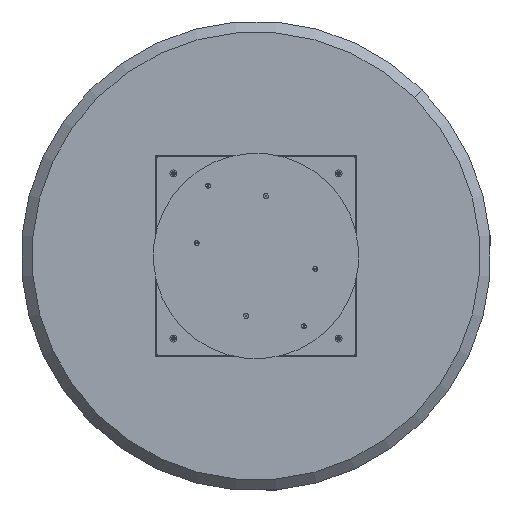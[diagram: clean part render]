
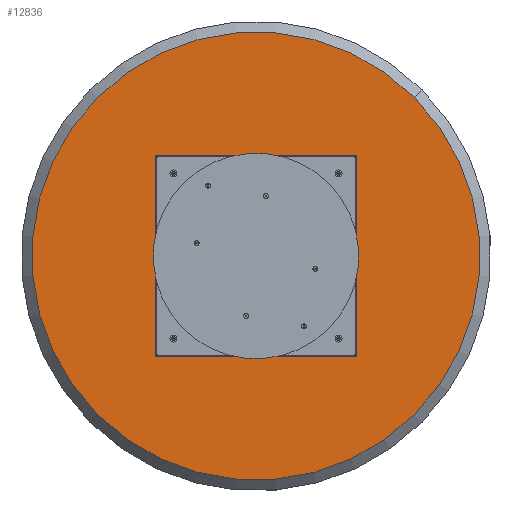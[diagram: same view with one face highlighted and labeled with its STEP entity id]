
A CAD part, front view. The second image highlights one B-rep face of the part: STEP entity #12836.
In plain terms, the highlighted planar face has unit normal (0, -1, 0).
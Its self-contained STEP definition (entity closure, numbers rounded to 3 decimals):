
#409 = AXIS2_PLACEMENT_3D ( 'NONE', #6152, #6273, #630 ) ;
#630 = DIRECTION ( 'NONE',  ( 0., 0., -1. ) ) ;
#780 = AXIS2_PLACEMENT_3D ( 'NONE', #11523, #7902, #22607 ) ;
#963 = DIRECTION ( 'NONE',  ( 0., -1., 0. ) ) ;
#1008 = ORIENTED_EDGE ( 'NONE', *, *, #18923, .F. ) ;
#1080 = EDGE_LOOP ( 'NONE', ( #13845, #4705 ) ) ;
#1221 = CARTESIAN_POINT ( 'NONE',  ( 0., 0., 400.9 ) ) ;
#1824 = CIRCLE ( 'NONE', #10294, 3.4 ) ;
#1865 = EDGE_LOOP ( 'NONE', ( #8473, #6514 ) ) ;
#1945 = EDGE_CURVE ( 'NONE', #8175, #19745, #17978, .T. ) ;
#2020 = CIRCLE ( 'NONE', #22797, 3.4 ) ;
#2147 = CARTESIAN_POINT ( 'NONE',  ( 0., 0., -397.5 ) ) ;
#2258 = ORIENTED_EDGE ( 'NONE', *, *, #4846, .F. ) ;
#2371 = ORIENTED_EDGE ( 'NONE', *, *, #4687, .F. ) ;
#2914 = FACE_BOUND ( 'NONE', #1865, .T. ) ;
#2973 = CARTESIAN_POINT ( 'NONE',  ( 0., 0., -394.1 ) ) ;
#3270 = DIRECTION ( 'NONE',  ( 0., -1., 0. ) ) ;
#3668 = EDGE_CURVE ( 'NONE', #4431, #15879, #13581, .T. ) ;
#3789 = AXIS2_PLACEMENT_3D ( 'NONE', #19801, #3270, #10267 ) ;
#3808 = DIRECTION ( 'NONE',  ( 0., 0., -1. ) ) ;
#4410 = VERTEX_POINT ( 'NONE', #1221 ) ;
#4431 = VERTEX_POINT ( 'NONE', #9273 ) ;
#4452 = CARTESIAN_POINT ( 'NONE',  ( -397.5, 0., 0. ) ) ;
#4687 = EDGE_CURVE ( 'NONE', #22075, #14176, #15880, .T. ) ;
#4705 = ORIENTED_EDGE ( 'NONE', *, *, #11517, .F. ) ;
#4801 = DIRECTION ( 'NONE',  ( 0., -1., 0. ) ) ;
#4846 = EDGE_CURVE ( 'NONE', #16075, #4410, #10101, .T. ) ;
#4982 = EDGE_CURVE ( 'NONE', #15769, #16317, #2020, .T. ) ;
#5505 = CARTESIAN_POINT ( 'NONE',  ( 397.5, 0., 0. ) ) ;
#6152 = CARTESIAN_POINT ( 'NONE',  ( -397.5, 0., 0. ) ) ;
#6273 = DIRECTION ( 'NONE',  ( 0., -1., 0. ) ) ;
#6514 = ORIENTED_EDGE ( 'NONE', *, *, #10007, .F. ) ;
#6822 = DIRECTION ( 'NONE',  ( 0., -1., 0. ) ) ;
#7836 = CARTESIAN_POINT ( 'NONE',  ( -397.5, 0., 3.4 ) ) ;
#7902 = DIRECTION ( 'NONE',  ( 0., -1., 0. ) ) ;
#8175 = VERTEX_POINT ( 'NONE', #13676 ) ;
#8354 = AXIS2_PLACEMENT_3D ( 'NONE', #2147, #13001, #18431 ) ;
#8473 = ORIENTED_EDGE ( 'NONE', *, *, #4982, .F. ) ;
#8588 = FACE_BOUND ( 'NONE', #1080, .T. ) ;
#8773 = DIRECTION ( 'NONE',  ( 0., 0., -1. ) ) ;
#9273 = CARTESIAN_POINT ( 'NONE',  ( 0., 0., -400.9 ) ) ;
#9777 = CIRCLE ( 'NONE', #21731, 763. ) ;
#9976 = DIRECTION ( 'NONE',  ( 0., -1., 0. ) ) ;
#10007 = EDGE_CURVE ( 'NONE', #16317, #15769, #1824, .T. ) ;
#10101 = CIRCLE ( 'NONE', #23198, 3.4 ) ;
#10267 = DIRECTION ( 'NONE',  ( 0., 0., -1. ) ) ;
#10294 = AXIS2_PLACEMENT_3D ( 'NONE', #11690, #963, #19283 ) ;
#10649 = AXIS2_PLACEMENT_3D ( 'NONE', #16154, #12398, #3808 ) ;
#10889 = EDGE_LOOP ( 'NONE', ( #14259, #12081 ) ) ;
#11169 = DIRECTION ( 'NONE',  ( 0., 0., -1. ) ) ;
#11425 = CIRCLE ( 'NONE', #8354, 3.4 ) ;
#11473 = EDGE_LOOP ( 'NONE', ( #2371, #1008 ) ) ;
#11517 = EDGE_CURVE ( 'NONE', #15879, #4431, #11425, .T. ) ;
#11523 = CARTESIAN_POINT ( 'NONE',  ( 0., 0., 397.5 ) ) ;
#11690 = CARTESIAN_POINT ( 'NONE',  ( 397.5, 0., 0. ) ) ;
#12028 = DIRECTION ( 'NONE',  ( 0., 0., -1. ) ) ;
#12081 = ORIENTED_EDGE ( 'NONE', *, *, #22993, .T. ) ;
#12201 = FACE_OUTER_BOUND ( 'NONE', #10889, .T. ) ;
#12398 = DIRECTION ( 'NONE',  ( 0., -1., 0. ) ) ;
#12491 = DIRECTION ( 'NONE',  ( 0., -1., 0. ) ) ;
#12836 = ADVANCED_FACE ( 'NONE', ( #12201, #8588, #19567, #2914, #23290 ), #14249, .T. ) ;
#13001 = DIRECTION ( 'NONE',  ( 0., -1., 0. ) ) ;
#13561 = AXIS2_PLACEMENT_3D ( 'NONE', #4452, #9976, #19036 ) ;
#13581 = CIRCLE ( 'NONE', #18202, 3.4 ) ;
#13676 = CARTESIAN_POINT ( 'NONE',  ( 0., 0., 763. ) ) ;
#13695 = CARTESIAN_POINT ( 'NONE',  ( 0., 0., -763. ) ) ;
#13845 = ORIENTED_EDGE ( 'NONE', *, *, #3668, .F. ) ;
#14176 = VERTEX_POINT ( 'NONE', #7836 ) ;
#14249 = PLANE ( 'NONE',  #3789 ) ;
#14259 = ORIENTED_EDGE ( 'NONE', *, *, #1945, .T. ) ;
#14299 = DIRECTION ( 'NONE',  ( 0., 0., -1. ) ) ;
#15373 = CARTESIAN_POINT ( 'NONE',  ( -397.5, 0., -3.4 ) ) ;
#15769 = VERTEX_POINT ( 'NONE', #22168 ) ;
#15779 = CARTESIAN_POINT ( 'NONE',  ( 0., 0., 397.5 ) ) ;
#15879 = VERTEX_POINT ( 'NONE', #2973 ) ;
#15880 = CIRCLE ( 'NONE', #13561, 3.4 ) ;
#15968 = EDGE_LOOP ( 'NONE', ( #2258, #22606 ) ) ;
#16075 = VERTEX_POINT ( 'NONE', #21892 ) ;
#16154 = CARTESIAN_POINT ( 'NONE',  ( 0., 0., 0. ) ) ;
#16317 = VERTEX_POINT ( 'NONE', #18762 ) ;
#16371 = EDGE_CURVE ( 'NONE', #4410, #16075, #18085, .T. ) ;
#17978 = CIRCLE ( 'NONE', #10649, 763. ) ;
#18085 = CIRCLE ( 'NONE', #780, 3.4 ) ;
#18202 = AXIS2_PLACEMENT_3D ( 'NONE', #21774, #12491, #8773 ) ;
#18431 = DIRECTION ( 'NONE',  ( 0., 0., -1. ) ) ;
#18762 = CARTESIAN_POINT ( 'NONE',  ( 397.5, 0., 3.4 ) ) ;
#18923 = EDGE_CURVE ( 'NONE', #14176, #22075, #19263, .T. ) ;
#19036 = DIRECTION ( 'NONE',  ( 0., 0., -1. ) ) ;
#19263 = CIRCLE ( 'NONE', #409, 3.4 ) ;
#19283 = DIRECTION ( 'NONE',  ( 0., 0., -1. ) ) ;
#19567 = FACE_BOUND ( 'NONE', #11473, .T. ) ;
#19745 = VERTEX_POINT ( 'NONE', #13695 ) ;
#19801 = CARTESIAN_POINT ( 'NONE',  ( 0., 0., 0. ) ) ;
#20226 = DIRECTION ( 'NONE',  ( 0., -1., 0. ) ) ;
#21731 = AXIS2_PLACEMENT_3D ( 'NONE', #23335, #6822, #14299 ) ;
#21774 = CARTESIAN_POINT ( 'NONE',  ( 0., 0., -397.5 ) ) ;
#21892 = CARTESIAN_POINT ( 'NONE',  ( 0., 0., 394.1 ) ) ;
#22075 = VERTEX_POINT ( 'NONE', #15373 ) ;
#22168 = CARTESIAN_POINT ( 'NONE',  ( 397.5, 0., -3.4 ) ) ;
#22606 = ORIENTED_EDGE ( 'NONE', *, *, #16371, .F. ) ;
#22607 = DIRECTION ( 'NONE',  ( 0., 0., -1. ) ) ;
#22797 = AXIS2_PLACEMENT_3D ( 'NONE', #5505, #20226, #11169 ) ;
#22993 = EDGE_CURVE ( 'NONE', #19745, #8175, #9777, .T. ) ;
#23198 = AXIS2_PLACEMENT_3D ( 'NONE', #15779, #4801, #12028 ) ;
#23290 = FACE_BOUND ( 'NONE', #15968, .T. ) ;
#23335 = CARTESIAN_POINT ( 'NONE',  ( 0., 0., 0. ) ) ;
